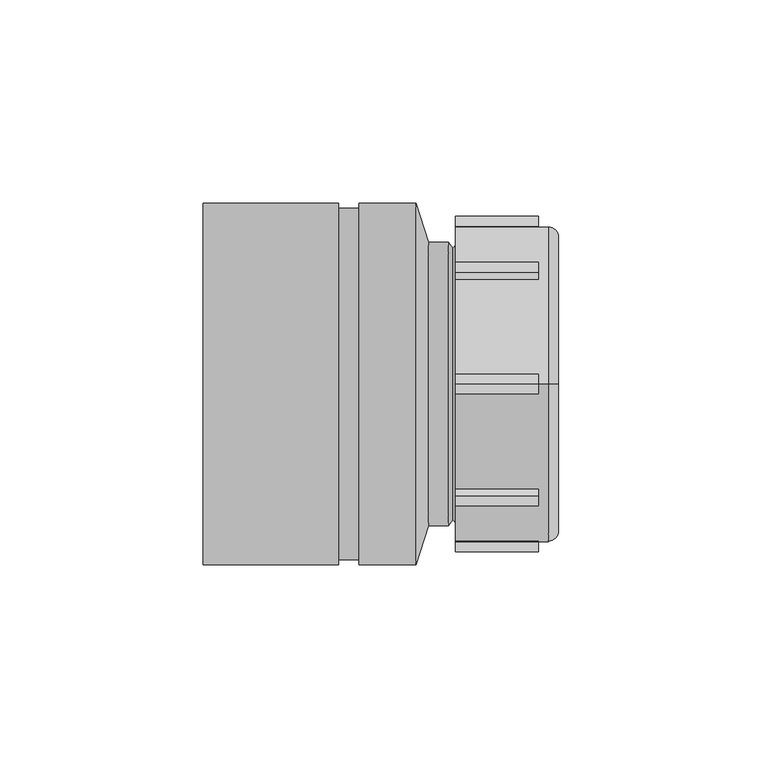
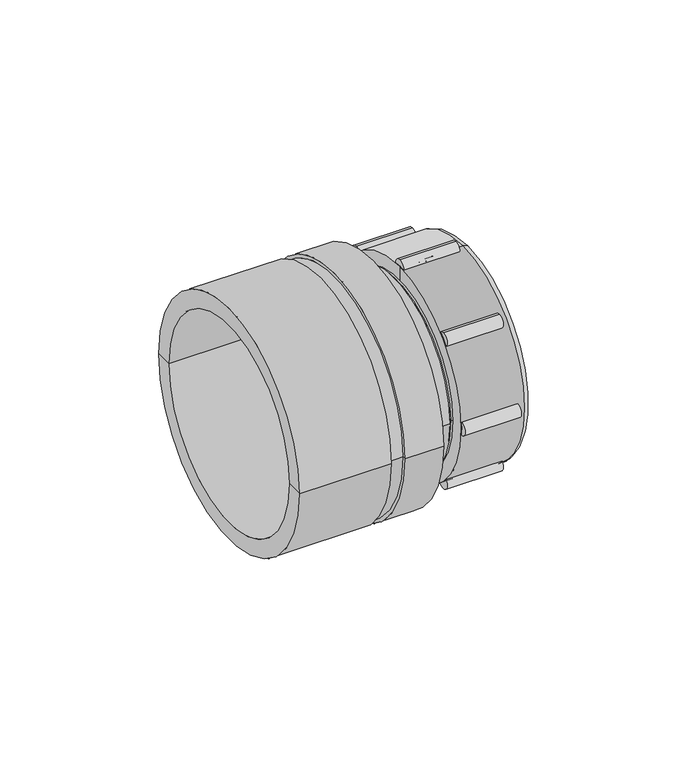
"""IFC4 building model written with IfcOpenShell, lengths in millimetres: pipe fitting geometry, Durapipe_PipeFitting_VulcatheneMechanical_ReducingCoupler_W39 : W3942_4Inxh x 2Inch_102mm x 51mm."""

from ifc_helpers import new_model, si_unit, point, frame, frame_2d, origin, place, context, project, spatial, polyline, circle_curve, ellipse_curve, trimmed, segment, composite_curve, outline, extrude, source, transform, mapped, element, save
from ifc_brep_helpers import plane_surface, cylinder_surface, revolved_surface, advanced_brep


def pipe_fitting_26df508a(model_context):
    return source(origin(), model_context, "Body", "SolidModel", [
        advanced_brep(
        [(39.85, 22.839549, 22.839549), (39.85, 21.2839141, 21.2839141), (39.85, -21.2839141, -21.2839141), (39.85, -22.839549, -22.839549), (34.25, 22.3445743, 22.3445743), (34.25, -22.3445743, -22.3445743), (32.85, 21.9203102, 21.9203102), (34.25, 21.9203102, 21.9203102), (34.25, -21.9203102, -21.9203102), (32.85, -21.9203102, -21.9203102), (32.85, -20.9303607, -20.9303607), (32.85, 20.9303607, 20.9303607), (35.15, -20.9303607, -20.9303607), (35.15, 20.9303607, 20.9303607), (35.15, -20.647518, -20.647518), (35.15, 20.647518, 20.647518), (37.35, 21.2839141, 21.2839141), (37.35, 20.647518, 20.647518), (37.35, -20.647518, -20.647518), (37.35, -21.2839141, -21.2839141)],
        [
            (0, 1),
            (1, 2, circle_curve(frame((39.85, 0.0, 0.0), z_axis=(-1.0, 0.0, 0.0), x_axis=(0.0, -0.7071067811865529, -0.7071067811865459)), 30.1)),
            (2, 3),
            (3, 0, circle_curve(frame((39.85, 0.0, 0.0), z_axis=(1.0, 0.0, 0.0), x_axis=(0.0, -0.7071067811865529, -0.7071067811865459)), 32.3)),
            (2, 1, circle_curve(frame((39.85, 0.0, 0.0), z_axis=(-1.0, 0.0, 0.0), x_axis=(0.0, -0.7071067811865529, -0.7071067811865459)), 30.1)),
            (0, 3, circle_curve(frame((39.85, 0.0, 0.0), z_axis=(1.0, 0.0, 0.0), x_axis=(0.0, -0.7071067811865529, -0.7071067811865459)), 32.3)),
            (4, 0),
            (3, 5),
            (5, 4, circle_curve(frame((34.25, 0.0, 0.0), z_axis=(1.0, 0.0, 0.0), x_axis=(0.0, -0.7071067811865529, -0.7071067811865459)), 31.6)),
            (4, 5, circle_curve(frame((34.25, 0.0, 0.0), z_axis=(1.0, 0.0, 0.0), x_axis=(0.0, -0.7071067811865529, -0.7071067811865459)), 31.6)),
            (6, 7),
            (7, 8, circle_curve(frame((34.25, 0.0, 0.0), z_axis=(-1.0, 0.0, 0.0), x_axis=(0.0, -0.7071067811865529, -0.7071067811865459)), 31.0)),
            (8, 9),
            (9, 6, circle_curve(frame((32.85, 0.0, 0.0), z_axis=(1.0, 0.0, 0.0), x_axis=(0.0, -0.7071067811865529, -0.7071067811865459)), 31.0)),
            (8, 7, circle_curve(frame((34.25, 0.0, 0.0), z_axis=(-1.0, 0.0, 0.0), x_axis=(0.0, -0.7071067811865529, -0.7071067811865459)), 31.0)),
            (6, 9, circle_curve(frame((32.85, 0.0, 0.0), z_axis=(1.0, 0.0, 0.0), x_axis=(0.0, -0.7071067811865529, -0.7071067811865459)), 31.0)),
            (9, 10),
            (10, 11, circle_curve(frame((32.85, 0.0, 0.0), z_axis=(1.0, 0.0, 0.0), x_axis=(0.0, -0.7071067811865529, -0.7071067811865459)), 29.6)),
            (11, 6),
            (11, 10, circle_curve(frame((32.85, 0.0, 0.0), z_axis=(1.0, 0.0, 0.0), x_axis=(0.0, -0.7071067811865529, -0.7071067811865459)), 29.6)),
            (10, 12),
            (12, 13, circle_curve(frame((35.15, 0.0, 0.0), z_axis=(1.0, 0.0, 0.0), x_axis=(0.0, -0.7071067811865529, -0.7071067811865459)), 29.6)),
            (13, 11),
            (13, 12, circle_curve(frame((35.15, 0.0, 0.0), z_axis=(1.0, 0.0, 0.0), x_axis=(0.0, -0.7071067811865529, -0.7071067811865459)), 29.6)),
            (12, 14),
            (14, 15, circle_curve(frame((35.15, 0.0, 0.0), z_axis=(1.0, 0.0, 0.0), x_axis=(0.0, -0.7071067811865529, -0.7071067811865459)), 29.2)),
            (15, 13),
            (15, 14, circle_curve(frame((35.15, 0.0, 0.0), z_axis=(1.0, 0.0, 0.0), x_axis=(0.0, -0.7071067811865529, -0.7071067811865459)), 29.2)),
            (16, 17),
            (17, 18, circle_curve(frame((37.35, 0.0, 0.0), z_axis=(-1.0, 0.0, 0.0), x_axis=(0.0, -0.7071067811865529, -0.7071067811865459)), 29.2)),
            (18, 19),
            (19, 16, circle_curve(frame((37.35, 0.0, 0.0), z_axis=(1.0, 0.0, 0.0), x_axis=(0.0, -0.7071067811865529, -0.7071067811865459)), 30.1)),
            (18, 17, circle_curve(frame((37.35, 0.0, 0.0), z_axis=(-1.0, 0.0, 0.0), x_axis=(0.0, -0.7071067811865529, -0.7071067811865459)), 29.2)),
            (16, 19, circle_curve(frame((37.35, 0.0, 0.0), z_axis=(1.0, 0.0, 0.0), x_axis=(0.0, -0.7071067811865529, -0.7071067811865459)), 30.1)),
            (1, 16),
            (19, 2),
            (14, 18),
            (17, 15),
            (5, 8),
            (7, 4),
        ],
        [
            plane_surface(frame((39.85, 0.0, 0.0), z_axis=(1.0, 0.0, 0.0), x_axis=(0.0, -0.707106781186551, -0.707106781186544))),
            revolved_surface(polyline([(39.85, -22.839549, -22.839549), (34.25, -22.3445743, -22.3445743)]), (44.85, 0.0, 0.0), (-1.0000000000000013, 0.0, 0.0)),
            cylinder_surface(frame((30.7793443, 0.0, 0.0), z_axis=(-1.0000000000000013, 0.0, 0.0), x_axis=(0.0, -0.7071067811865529, -0.7071067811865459)), 31.0),
            plane_surface(frame((32.85, 0.0, 0.0), z_axis=(-1.0, 0.0, 0.0), x_axis=(0.0, -0.707106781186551, -0.707106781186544))),
            revolved_surface(polyline([(32.85000000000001, -20.930360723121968, -20.93036072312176), (35.15000000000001, -20.930360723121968, -20.93036072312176)]), (29.357009, 0.0, 0.0), (-1.0000000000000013, 0.0, 0.0)),
            plane_surface(frame((35.15, 0.0, 0.0), z_axis=(-1.0, 0.0, 0.0), x_axis=(0.0, -0.707106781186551, -0.707106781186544))),
            plane_surface(frame((37.35, 0.0, 0.0), z_axis=(1.0, 0.0, 0.0), x_axis=(0.0, -0.707106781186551, -0.707106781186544))),
            revolved_surface(polyline([(37.34999999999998, -21.283914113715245, -21.28391411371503), (39.84999999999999, -21.283914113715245, -21.28391411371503)]), (44.85, 0.0, 0.0), (-1.0000000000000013, 0.0, 0.0)),
            revolved_surface(polyline([(35.149999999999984, -20.647518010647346, -20.64751801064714), (37.349999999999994, -20.647518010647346, -20.64751801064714)]), (41.4161924, 0.0, 0.0), (-1.0000000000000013, 0.0, 0.0)),
            plane_surface(frame((34.25, 0.0, 0.0), z_axis=(-1.0, 0.0, 0.0), x_axis=(0.0, -0.707106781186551, -0.707106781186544))),
        ],
        [
            (0, [[1, 2, 3, 4]]),
            (0, [[5, -1, 6, -3]]),
            (1, [[7, -4, 8, 9]]),
            (1, [[-8, -6, -7, 10]]),
            (2, [[11, 12, 13, 14]]),
            (2, [[15, -11, 16, -13]]),
            (3, [[17, 18, 19, -14]]),
            (3, [[-19, 20, -17, -16]]),
            (4, [[-18, 21, 22, 23]]),
            (4, [[24, -21, -20, -23]]),
            (5, [[25, 26, 27, -22]]),
            (5, [[-27, 28, -25, -24]]),
            (6, [[29, 30, 31, 32]]),
            (6, [[-31, 33, -29, 34]]),
            (7, [[35, -32, 36, -2]]),
            (7, [[-36, -34, -35, -5]]),
            (8, [[-26, 37, -30, 38]]),
            (8, [[-33, -37, -28, -38]]),
            (9, [[39, -12, 40, -9]]),
            (9, [[-40, -15, -39, -10]]),
        ],
    ),
        advanced_brep(
        [(18.35, 0.0, 38.8), (41.25, 0.0, 38.8), (41.25, 0.0, -38.8), (18.35, 0.0, -38.8), (18.35, 0.0, 33.0), (18.35, 0.0, -33.0), (43.75, 0.0, 36.3), (43.75, 0.0, 31.0), (43.75, 0.0, -31.0), (43.75, 0.0, -36.3), (39.85, 0.0, 33.0), (39.85, 0.0, -33.0), (39.85, 0.0, 31.0), (39.85, 0.0, -31.0)],
        [
            (0, 1),
            (1, 2, circle_curve(frame((41.25, 0.0, 0.0), z_axis=(-1.0, 0.0, 0.0), x_axis=(0.0, 0.0, -1.0000000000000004)), 38.8)),
            (2, 3),
            (3, 0, circle_curve(frame((18.35, 0.0, 0.0), z_axis=(1.0, 0.0, 0.0), x_axis=(0.0, 0.0, -1.0000000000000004)), 38.8)),
            (2, 1, circle_curve(frame((41.25, 0.0, 0.0), z_axis=(-1.0, 0.0, 0.0), x_axis=(0.0, 0.0, -1.0000000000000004)), 38.8)),
            (0, 3, circle_curve(frame((18.35, 0.0, 0.0), z_axis=(1.0, 0.0, 0.0), x_axis=(0.0, 0.0, -1.0000000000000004)), 38.8)),
            (4, 0),
            (3, 5),
            (5, 4, circle_curve(frame((18.35, 0.0, 0.0), z_axis=(1.0, 0.0, 0.0), x_axis=(0.0, 0.0, -1.0000000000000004)), 33.0)),
            (4, 5, circle_curve(frame((18.35, 0.0, 0.0), z_axis=(1.0, 0.0, 0.0), x_axis=(0.0, 0.0, -1.0000000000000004)), 33.0)),
            (6, 7),
            (7, 8, circle_curve(frame((43.75, 0.0, 0.0), z_axis=(-1.0, 0.0, 0.0), x_axis=(0.0, 0.0, -1.0000000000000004)), 31.0)),
            (8, 9),
            (9, 6, circle_curve(frame((43.75, 0.0, 0.0), z_axis=(1.0, 0.0, 0.0), x_axis=(0.0, 0.0, -1.0000000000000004)), 36.3)),
            (8, 7, circle_curve(frame((43.75, 0.0, 0.0), z_axis=(-1.0, 0.0, 0.0), x_axis=(0.0, 0.0, -1.0000000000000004)), 31.0)),
            (6, 9, circle_curve(frame((43.75, 0.0, 0.0), z_axis=(1.0, 0.0, 0.0), x_axis=(0.0, 0.0, -1.0000000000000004)), 36.3)),
            (1, 6, circle_curve(frame((41.25, 0.0, 36.3), z_axis=(0.0, 1.0000000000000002, 0.0), x_axis=(1.0000000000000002, 0.0, 0.0)), 2.5)),
            (9, 2, circle_curve(frame((41.25, 0.0, -36.3), z_axis=(0.0, 1.0000000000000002, 0.0), x_axis=(1.0000000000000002, 0.0, 0.0)), 2.5)),
            (10, 4),
            (5, 11),
            (11, 10, circle_curve(frame((39.85, 0.0, 0.0), z_axis=(1.0, 0.0, 0.0), x_axis=(0.0, 0.0, -1.0000000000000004)), 33.0)),
            (10, 11, circle_curve(frame((39.85, 0.0, 0.0), z_axis=(1.0, 0.0, 0.0), x_axis=(0.0, 0.0, -1.0000000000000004)), 33.0)),
            (12, 10),
            (11, 13),
            (13, 12, circle_curve(frame((39.85, 0.0, 0.0), z_axis=(1.0, 0.0, 0.0), x_axis=(0.0, 0.0, -1.0000000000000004)), 31.0)),
            (12, 13, circle_curve(frame((39.85, 0.0, 0.0), z_axis=(1.0, 0.0, 0.0), x_axis=(0.0, 0.0, -1.0000000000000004)), 31.0)),
            (7, 12),
            (13, 8),
        ],
        [
            cylinder_surface(frame((1604.5518184, 0.0, 0.0), z_axis=(-1.0000000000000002, 0.0, 0.0), x_axis=(0.0, 0.0, -1.0000000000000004)), 38.8),
            plane_surface(frame((18.35, 0.0, 0.0), z_axis=(-1.0, 0.0, 0.0), x_axis=(0.0, 0.0, -1.0))),
            plane_surface(frame((43.75, 0.0, 0.0), z_axis=(1.0, 0.0, 0.0), x_axis=(0.0, 0.0, -1.0))),
            revolved_surface(trimmed(ellipse_curve(frame((41.25, 0.0, -36.3), z_axis=(0.0, 1.0000000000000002, 0.0), x_axis=(1.0000000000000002, 0.0, 0.0)), 2.5, 2.5), [point((43.75, 0.0, -36.3))], [point((41.25, 0.0, -38.8))], True, "CARTESIAN"), (1604.5518184, 0.0, 0.0), (-1.0000000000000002, 0.0, 0.0)),
            revolved_surface(polyline([(18.349999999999, 0.0, -33.000000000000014), (39.849999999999, 0.0, -33.000000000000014)]), (1604.5518184, 0.0, 0.0), (-1.0000000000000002, 0.0, 0.0)),
            plane_surface(frame((39.85, 0.0, 0.0), z_axis=(-1.0, 0.0, 0.0), x_axis=(0.0, 0.0, -1.0))),
            revolved_surface(polyline([(39.849999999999, 0.0, -31.000000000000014), (43.74999999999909, 0.0, -31.000000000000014)]), (1604.5518184, 0.0, 0.0), (-1.0000000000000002, 0.0, 0.0)),
        ],
        [
            (0, [[1, 2, 3, 4]]),
            (0, [[-3, 5, -1, 6]]),
            (1, [[7, -4, 8, 9]]),
            (1, [[-8, -6, -7, 10]]),
            (2, [[11, 12, 13, 14]]),
            (2, [[-13, 15, -11, 16]]),
            (3, [[17, -14, 18, -2]]),
            (3, [[-18, -16, -17, -5]]),
            (4, [[19, -9, 20, 21]]),
            (4, [[-20, -10, -19, 22]]),
            (5, [[23, -21, 24, 25]]),
            (5, [[-24, -22, -23, 26]]),
            (6, [[27, -25, 28, -12]]),
            (6, [[-28, -26, -27, -15]]),
        ],
    ),
        extrude(outline(composite_curve([segment(trimmed(circle_curve(frame_2d((-38.8, 0.0)), 2.5), [point((-38.8, 2.5))], [point((-38.8, -2.5))], False, "CARTESIAN"), True, "CONTINUOUS"), segment(trimmed(circle_curve(frame_2d((-38.8, 0.0)), 2.5), [point((-38.8, -2.5))], [point((-38.8, 2.5))], False, "CARTESIAN"), True, "CONTINUOUS")], self_intersect=False)), frame((18.35, 0.0, 0.0), z_axis=(1.0, 0.0, 0.0), x_axis=(0.0, 1.0, 0.0)), (0.0, 0.0, 1.0), 20.4),
        extrude(outline(composite_curve([segment(trimmed(circle_curve(frame_2d((-27.4357431, -27.4357431)), 2.5), [point((-27.4357431, -24.9357431))], [point((-27.4357431, -29.9357431))], False, "CARTESIAN"), True, "CONTINUOUS"), segment(trimmed(circle_curve(frame_2d((-27.4357431, -27.4357431)), 2.5), [point((-27.4357431, -29.9357431))], [point((-27.4357431, -24.9357431))], False, "CARTESIAN"), True, "CONTINUOUS")], self_intersect=False)), frame((18.35, 0.0, 0.0), z_axis=(1.0, 0.0, 0.0), x_axis=(0.0, 1.0, 0.0)), (0.0, 0.0, 1.0), 20.4),
        extrude(outline(composite_curve([segment(trimmed(circle_curve(frame_2d((0.0, -38.8)), 2.5), [point((0.0, -36.3))], [point((0.0, -41.3))], False, "CARTESIAN"), True, "CONTINUOUS"), segment(trimmed(circle_curve(frame_2d((0.0, -38.8)), 2.5), [point((0.0, -41.3))], [point((0.0, -36.3))], False, "CARTESIAN"), True, "CONTINUOUS")], self_intersect=False)), frame((18.35, 0.0, 0.0), z_axis=(1.0, 0.0, 0.0), x_axis=(0.0, 1.0, 0.0)), (0.0, 0.0, 1.0), 20.4),
        extrude(outline(composite_curve([segment(trimmed(circle_curve(frame_2d((27.4357431, -27.4357431)), 2.5), [point((27.4357431, -24.9357431))], [point((27.4357431, -29.9357431))], False, "CARTESIAN"), True, "CONTINUOUS"), segment(trimmed(circle_curve(frame_2d((27.4357431, -27.4357431)), 2.5), [point((27.4357431, -29.9357431))], [point((27.4357431, -24.9357431))], False, "CARTESIAN"), True, "CONTINUOUS")], self_intersect=False)), frame((18.35, 0.0, 0.0), z_axis=(1.0, 0.0, 0.0), x_axis=(0.0, 1.0, 0.0)), (0.0, 0.0, 1.0), 20.4),
        extrude(outline(composite_curve([segment(trimmed(circle_curve(frame_2d((38.8, 0.0)), 2.5), [point((38.8, 2.5))], [point((38.8, -2.5))], False, "CARTESIAN"), True, "CONTINUOUS"), segment(trimmed(circle_curve(frame_2d((38.8, 0.0)), 2.5), [point((38.8, -2.5))], [point((38.8, 2.5))], False, "CARTESIAN"), True, "CONTINUOUS")], self_intersect=False)), frame((18.35, 0.0, 0.0), z_axis=(1.0, 0.0, 0.0), x_axis=(0.0, 1.0, 0.0)), (0.0, 0.0, 1.0), 20.4),
        extrude(outline(composite_curve([segment(trimmed(circle_curve(frame_2d((27.4357431, 27.4357431)), 2.5), [point((27.4357431, 29.9357431))], [point((27.4357431, 24.9357431))], False, "CARTESIAN"), True, "CONTINUOUS"), segment(trimmed(circle_curve(frame_2d((27.4357431, 27.4357431)), 2.5), [point((27.4357431, 24.9357431))], [point((27.4357431, 29.9357431))], False, "CARTESIAN"), True, "CONTINUOUS")], self_intersect=False)), frame((18.35, 0.0, 0.0), z_axis=(1.0, 0.0, 0.0), x_axis=(0.0, 1.0, 0.0)), (0.0, 0.0, 1.0), 20.4),
        extrude(outline(composite_curve([segment(trimmed(circle_curve(frame_2d((0.0, 38.8)), 2.5), [point((0.0, 41.3))], [point((0.0, 36.3))], False, "CARTESIAN"), True, "CONTINUOUS"), segment(trimmed(circle_curve(frame_2d((0.0, 38.8)), 2.5), [point((0.0, 36.3))], [point((0.0, 41.3))], False, "CARTESIAN"), True, "CONTINUOUS")], self_intersect=False)), frame((18.35, 0.0, 0.0), z_axis=(1.0, 0.0, 0.0), x_axis=(0.0, 1.0, 0.0)), (0.0, 0.0, 1.0), 20.4),
        extrude(outline(composite_curve([segment(trimmed(circle_curve(frame_2d((-27.4357431, 27.4357431)), 2.5), [point((-27.4357431, 29.9357431))], [point((-27.4357431, 24.9357431))], False, "CARTESIAN"), True, "CONTINUOUS"), segment(trimmed(circle_curve(frame_2d((-27.4357431, 27.4357431)), 2.5), [point((-27.4357431, 24.9357431))], [point((-27.4357431, 29.9357431))], False, "CARTESIAN"), True, "CONTINUOUS")], self_intersect=False)), frame((18.35, 0.0, 0.0), z_axis=(1.0, 0.0, 0.0), x_axis=(0.0, 1.0, 0.0)), (0.0, 0.0, 1.0), 20.4),
        advanced_brep(
        [(9.0022706, -26.19375, 0.0), (9.0022706, 26.19375, 0.0), (4.66875, 38.1, 0.0), (4.66875, -38.1, 0.0), (11.8125, -26.19375, 0.0), (11.8125, 26.19375, 0.0), (11.8125, -30.2895, 0.0), (11.8125, 30.2895, 0.0), (18.35, -30.2895, 0.0), (18.35, 30.2895, 0.0), (18.35, -34.1799803, 0.0), (18.35, 34.1799803, 0.0), (17.7295455, -33.39, 0.0), (17.7295455, 33.39, 0.0), (16.575, -34.86, 0.0), (16.575, 34.86, 0.0), (11.7534799, -34.86, 0.0), (11.7534799, 34.86, 0.0), (8.6375, -44.45, 0.0), (8.6375, 44.45, 0.0), (-5.3325, -44.45, 0.0), (-5.3325, 44.45, 0.0), (-5.3325, -43.2181, 0.0), (-5.3325, 43.2181, 0.0), (-10.4125, -43.2181, 0.0), (-10.4125, 43.2181, 0.0), (-10.4125, -44.45, 0.0), (-10.4125, 44.45, 0.0), (-43.75, -44.45, 0.0), (-43.75, 44.45, 0.0), (-43.75, -38.1, 0.0), (-43.75, 38.1, 0.0)],
        [
            (0, 1, circle_curve(frame((9.0022706, 0.0, 0.0), z_axis=(1.0, 0.0, 0.0), x_axis=(0.0, 1.0, 0.0)), 26.19375)),
            (1, 2),
            (2, 3, circle_curve(frame((4.66875, 0.0, 0.0), z_axis=(-1.0, 0.0, 0.0), x_axis=(0.0, 1.0, 0.0)), 38.1)),
            (3, 0),
            (1, 0, circle_curve(frame((9.0022706, 0.0, 0.0), z_axis=(1.0, 0.0, 0.0), x_axis=(0.0, 1.0, 0.0)), 26.19375)),
            (3, 2, circle_curve(frame((4.66875, 0.0, 0.0), z_axis=(-1.0, 0.0, 0.0), x_axis=(0.0, 1.0, 0.0)), 38.1)),
            (4, 5, circle_curve(frame((11.8125, 0.0, 0.0), z_axis=(1.0, 0.0, 0.0), x_axis=(0.0, 1.0, 0.0)), 26.19375)),
            (5, 1),
            (0, 4),
            (5, 4, circle_curve(frame((11.8125, 0.0, 0.0), z_axis=(1.0, 0.0, 0.0), x_axis=(0.0, 1.0, 0.0)), 26.19375)),
            (6, 7, circle_curve(frame((11.8125, 0.0, 0.0), z_axis=(1.0, 0.0, 0.0), x_axis=(0.0, 1.0, 0.0)), 30.2895)),
            (7, 5),
            (4, 6),
            (7, 6, circle_curve(frame((11.8125, 0.0, 0.0), z_axis=(1.0, 0.0, 0.0), x_axis=(0.0, 1.0, 0.0)), 30.2895)),
            (8, 9, circle_curve(frame((18.35, 0.0, 0.0), z_axis=(1.0, 0.0, 0.0), x_axis=(0.0, 1.0, 0.0)), 30.2895)),
            (9, 7),
            (6, 8),
            (9, 8, circle_curve(frame((18.35, 0.0, 0.0), z_axis=(1.0, 0.0, 0.0), x_axis=(0.0, 1.0, 0.0)), 30.2895)),
            (10, 11, circle_curve(frame((18.35, 0.0, 0.0), z_axis=(1.0, 0.0, 0.0), x_axis=(0.0, 1.0, 0.0)), 34.1799803)),
            (11, 9),
            (8, 10),
            (11, 10, circle_curve(frame((18.35, 0.0, 0.0), z_axis=(1.0, 0.0, 0.0), x_axis=(0.0, 1.0, 0.0)), 34.1799803)),
            (12, 13, circle_curve(frame((17.7295455, 0.0, 0.0), z_axis=(1.0, 0.0, 0.0), x_axis=(0.0, 1.0, 0.0)), 33.39)),
            (13, 11),
            (10, 12),
            (13, 12, circle_curve(frame((17.7295455, 0.0, 0.0), z_axis=(1.0, 0.0, 0.0), x_axis=(0.0, 1.0, 0.0)), 33.39)),
            (14, 15, circle_curve(frame((16.575, 0.0, 0.0), z_axis=(1.0, 0.0, 0.0), x_axis=(0.0, 1.0, 0.0)), 34.86)),
            (15, 13),
            (12, 14),
            (15, 14, circle_curve(frame((16.575, 0.0, 0.0), z_axis=(1.0, 0.0, 0.0), x_axis=(0.0, 1.0, 0.0)), 34.86)),
            (16, 17, circle_curve(frame((11.7534799, 0.0, 0.0), z_axis=(1.0, 0.0, 0.0), x_axis=(0.0, 1.0, 0.0)), 34.86)),
            (17, 15),
            (14, 16),
            (17, 16, circle_curve(frame((11.7534799, 0.0, 0.0), z_axis=(1.0, 0.0, 0.0), x_axis=(0.0, 1.0, 0.0)), 34.86)),
            (18, 19, circle_curve(frame((8.6375, 0.0, 0.0), z_axis=(1.0, 0.0, 0.0), x_axis=(0.0, 1.0, 0.0)), 44.45)),
            (19, 17),
            (16, 18),
            (19, 18, circle_curve(frame((8.6375, 0.0, 0.0), z_axis=(1.0, 0.0, 0.0), x_axis=(0.0, 1.0, 0.0)), 44.45)),
            (20, 21, circle_curve(frame((-5.3325, 0.0, 0.0), z_axis=(1.0, 0.0, 0.0), x_axis=(0.0, 1.0, 0.0)), 44.45)),
            (21, 19),
            (18, 20),
            (21, 20, circle_curve(frame((-5.3325, 0.0, 0.0), z_axis=(1.0, 0.0, 0.0), x_axis=(0.0, 1.0, 0.0)), 44.45)),
            (22, 23, circle_curve(frame((-5.3325, 0.0, 0.0), z_axis=(1.0, 0.0, 0.0), x_axis=(0.0, 1.0, 0.0)), 43.2181)),
            (23, 21),
            (20, 22),
            (23, 22, circle_curve(frame((-5.3325, 0.0, 0.0), z_axis=(1.0, 0.0, 0.0), x_axis=(0.0, 1.0, 0.0)), 43.2181)),
            (24, 25, circle_curve(frame((-10.4125, 0.0, 0.0), z_axis=(1.0, 0.0, 0.0), x_axis=(0.0, 1.0, 0.0)), 43.2181)),
            (25, 23),
            (22, 24),
            (25, 24, circle_curve(frame((-10.4125, 0.0, 0.0), z_axis=(1.0, 0.0, 0.0), x_axis=(0.0, 1.0, 0.0)), 43.2181)),
            (26, 27, circle_curve(frame((-10.4125, 0.0, 0.0), z_axis=(1.0, 0.0, 0.0), x_axis=(0.0, 1.0, 0.0)), 44.45)),
            (27, 25),
            (24, 26),
            (27, 26, circle_curve(frame((-10.4125, 0.0, 0.0), z_axis=(1.0, 0.0, 0.0), x_axis=(0.0, 1.0, 0.0)), 44.45)),
            (28, 29, circle_curve(frame((-43.75, 0.0, 0.0), z_axis=(1.0, 0.0, 0.0), x_axis=(0.0, 1.0, 0.0)), 44.45)),
            (29, 27),
            (26, 28),
            (29, 28, circle_curve(frame((-43.75, 0.0, 0.0), z_axis=(1.0, 0.0, 0.0), x_axis=(0.0, 1.0, 0.0)), 44.45)),
            (30, 31, circle_curve(frame((-43.75, 0.0, 0.0), z_axis=(1.0, 0.0, 0.0), x_axis=(0.0, 1.0, 0.0)), 38.1)),
            (31, 29),
            (28, 30),
            (31, 30, circle_curve(frame((-43.75, 0.0, 0.0), z_axis=(1.0, 0.0, 0.0), x_axis=(0.0, 1.0, 0.0)), 38.1)),
            (2, 31),
            (30, 3),
        ],
        [
            revolved_surface(polyline([(4.66875, 38.1, 0.0), (9.0022706, 26.19375, 0.0)]), (-38.423105, 0.0, 0.0), (-1.0, 0.0, 0.0)),
            revolved_surface(polyline([(9.002270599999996, 26.19375, 0.0), (11.8125, 26.19375, 0.0)]), (-38.423105, 0.0, 0.0), (-1.0, 0.0, 0.0)),
            plane_surface(frame((11.8125, 0.0, 0.0), z_axis=(1.0, 0.0, 0.0), x_axis=(0.0, 1.0, 0.0))),
            revolved_surface(polyline([(11.8125, 30.2895, 0.0), (18.35, 30.2895, 0.0)]), (-38.423105, 0.0, 0.0), (-1.0, 0.0, 0.0)),
            plane_surface(frame((18.35, 0.0, 0.0), z_axis=(1.0, 0.0, 0.0), x_axis=(0.0, 1.0, 0.0))),
            revolved_surface(polyline([(18.35, 34.1799803, 0.0), (17.7295455, 33.39, 0.0)]), (-38.423105, 0.0, 0.0), (-1.0, 0.0, 0.0)),
            revolved_surface(polyline([(17.7295455, 33.39, 0.0), (16.575, 34.86, 0.0)]), (-38.423105, 0.0, 0.0), (-1.0, 0.0, 0.0)),
            cylinder_surface(frame((-38.423105, 0.0, 0.0), z_axis=(-1.0, 0.0, 0.0), x_axis=(0.0, 1.0, 0.0)), 34.86),
            revolved_surface(polyline([(11.7534799, 34.86, 0.0), (8.6375, 44.45, 0.0)]), (-38.423105, 0.0, 0.0), (-1.0, 0.0, 0.0)),
            cylinder_surface(frame((-38.423105, 0.0, 0.0), z_axis=(-1.0, 0.0, 0.0), x_axis=(0.0, 1.0, 0.0)), 44.45),
            plane_surface(frame((-5.3325, 0.0, 0.0), z_axis=(-1.0, 0.0, 0.0), x_axis=(0.0, 1.0, 0.0))),
            cylinder_surface(frame((-38.423105, 0.0, 0.0), z_axis=(-1.0, 0.0, 0.0), x_axis=(0.0, 1.0, 0.0)), 43.2181),
            plane_surface(frame((-10.4125, 0.0, 0.0), z_axis=(1.0, 0.0, 0.0), x_axis=(0.0, 1.0, 0.0))),
            plane_surface(frame((-43.75, 0.0, 0.0), z_axis=(-1.0, 0.0, 0.0), x_axis=(0.0, 1.0, 0.0))),
            revolved_surface(polyline([(-43.75, 38.1, 0.0), (4.668750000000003, 38.1, 0.0)]), (-38.423105, 0.0, 0.0), (-1.0, 0.0, 0.0)),
        ],
        [
            (0, [[1, 2, 3, 4]]),
            (0, [[5, -4, 6, -2]]),
            (1, [[7, 8, -1, 9]]),
            (1, [[10, -9, -5, -8]]),
            (2, [[11, 12, -7, 13]]),
            (2, [[14, -13, -10, -12]]),
            (3, [[15, 16, -11, 17]]),
            (3, [[18, -17, -14, -16]]),
            (4, [[19, 20, -15, 21]]),
            (4, [[22, -21, -18, -20]]),
            (5, [[23, 24, -19, 25]]),
            (5, [[26, -25, -22, -24]]),
            (6, [[27, 28, -23, 29]]),
            (6, [[30, -29, -26, -28]]),
            (7, [[31, 32, -27, 33]]),
            (7, [[34, -33, -30, -32]]),
            (8, [[35, 36, -31, 37]]),
            (8, [[38, -37, -34, -36]]),
            (9, [[39, 40, -35, 41]]),
            (9, [[42, -41, -38, -40]]),
            (10, [[43, 44, -39, 45]]),
            (10, [[46, -45, -42, -44]]),
            (11, [[47, 48, -43, 49]]),
            (11, [[50, -49, -46, -48]]),
            (12, [[51, 52, -47, 53]]),
            (12, [[54, -53, -50, -52]]),
            (9, [[55, 56, -51, 57]]),
            (9, [[58, -57, -54, -56]]),
            (13, [[59, 60, -55, 61]]),
            (13, [[62, -61, -58, -60]]),
            (14, [[-3, 63, -59, 64]]),
            (14, [[-6, -64, -62, -63]]),
        ],
    ),
    ])


if __name__ == "__main__":
    model = new_model("IFC4")
    model_context = context("Model", 3, world=origin())
    ifc_project = project(units=[si_unit("LENGTHUNIT", "METRE", prefix="MILLI")], contexts=[model_context])
    site = spatial("IfcSite", under=ifc_project)
    building = spatial("IfcBuilding", under=site)
    placement = place(None, origin())
    pipe_fitting_shape = pipe_fitting_26df508a(model_context)
    element("IfcPipeFitting", 1, ObjectType="Durapipe_PipeFitting_VulcatheneMechanical_ReducingCoupler_W39 : W3942_4Inxh x 2Inch_102mm x 51mm", at=placement, inside=building, context=model_context, shape_type="MappedRepresentation", body=[
        mapped(pipe_fitting_shape, transform((0.0, 0.0, 0.0), x_axis=(1.0, 0.0, 0.0), y_axis=(0.0, 1.0, 0.0), z_axis=(0.0, 0.0, 1.0))),
    ])
    save(model, "model.ifc")
